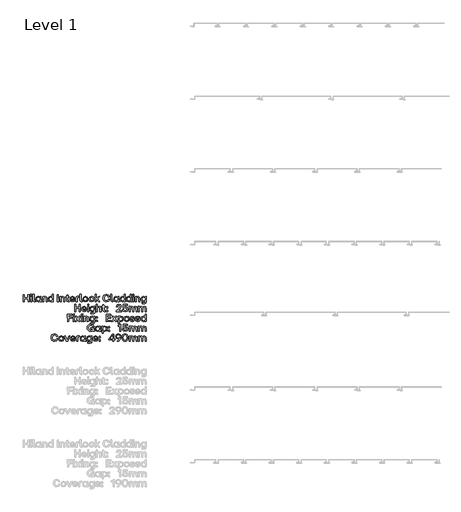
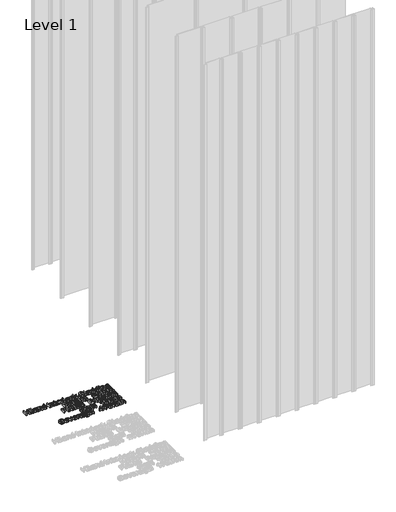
# One storey, part 51 of 64: 1 proxy.
"""IFC4 building model written with IfcOpenShell, lengths in millimetres."""

from ifc_helpers import new_model, si_unit, origin, origin_with_axes, place, context, project, spatial, polyline, outline, extrude, element, save

model = new_model("IFC4")

# Units and contexts
model_context = context("Model", 3, world=origin())
ifc_project = project(units=[si_unit("LENGTHUNIT", "METRE", prefix="MILLI")], contexts=[model_context])

# Site, building, storey
site = spatial("IfcSite", under=ifc_project)
building = spatial("IfcBuilding", under=site)
storey = spatial("IfcBuildingStorey", under=building, Name="Level 1", Elevation=0.0)

# Proxy
placement = place(None, origin())
element("IfcBuildingElementProxy", 1, Name="50mm", ObjectType="50mm", at=placement, inside=storey, context=model_context, shape_type="SweptSolid", body=[
    extrude(outline(polyline([(-1116.4360885, 1096.9748178), (-1117.1334203, 1118.9128767), (-1140.9821684, 1118.9128767), (-1140.9821684, 1097.6721497), (-1148.4854587, 1096.9748178), (-1149.2106838, 1146.2482839), (-1141.7213401, 1146.973509), (-1140.9821684, 1125.8861949), (-1117.1334203, 1125.8861949), (-1117.1334203, 1146.2482839), (-1109.6440766, 1146.973509), (-1108.9467448, 1097.6721497), (-1116.4360885, 1096.9748178)])), origin_with_axes(), (0.0, 0.0, 1.0), 20.0),
    extrude(outline(polyline([(-1098.8493802, 1096.9748178), (-1099.5746052, 1132.6782068), (-1092.3641943, 1133.3755386), (-1091.6668625, 1097.6721497), (-1098.8493802, 1096.9748178)])), origin_with_axes(), (0.0, 0.0, 1.0), 20.0),
    extrude(outline(polyline([(-1099.7838048, 1140.0420307), (-1100.1324707, 1148.0892399), (-1091.7365957, 1148.8284116), (-1090.9974239, 1140.3906966), (-1099.7838048, 1140.0420307)])), origin_with_axes(), (0.0, 0.0, 1.0), 20.0),
    extrude(outline(polyline([(-1072.2670914, 1096.9748178), (-1079.9656346, 1099.6246787), (-1082.6154955, 1107.3371686), (-1082.6154955, 1147.6708408), (-1075.4050846, 1148.4100125), (-1074.7077527, 1103.2508042), (-1068.0412606, 1103.2508042), (-1067.3439288, 1097.6721497), (-1072.2670914, 1096.9748178)])), origin_with_axes(), (0.0, 0.0, 1.0), 20.0),
    extrude(outline(polyline([(-1047.1770927, 1096.5564188), (-1058.9480537, 1101.5981278), (-1063.3272975, 1115.105445), (-1058.9480537, 1128.7452553), (-1047.1770927, 1133.8357776), (-1040.5594138, 1132.2319144), (-1035.5734913, 1127.838724), (-1035.2527187, 1132.6782068), (-1028.070201, 1133.3755386), (-1027.3449759, 1103.2508042), (-1023.3980778, 1103.2508042), (-1022.700746, 1097.6721497), (-1028.6977996, 1096.9748178), (-1033.3524895, 1098.282315), (-1034.9040528, 1102.2048065), (-1040.2595611, 1098.1602819), (-1047.1770927, 1096.5564188)]), holes=[polyline([(-1055.2661417, 1115.105445), (-1052.5116811, 1106.2144644), (-1044.9874708, 1102.9718715), (-1037.6236468, 1106.2005178), (-1034.9737859, 1115.105445), (-1037.6445668, 1124.1010254), (-1044.9874708, 1127.378485), (-1052.5116811, 1124.1010254), (-1055.2661417, 1115.105445)])]), origin_with_axes(), (0.0, 0.0, 1.0), 20.0),
    extrude(outline(polyline([(-1015.839001, 1096.9748178), (-1016.564226, 1132.6782068), (-1009.702481, 1133.3755386), (-1009.0051492, 1127.838724), (-1003.8414071, 1132.3365142), (-997.2202415, 1133.8357776), (-987.6598223, 1129.6517867), (-984.3474962, 1117.40664), (-984.3474962, 1097.6721497), (-991.5718538, 1096.9748178), (-992.2970789, 1117.40664), (-994.249608, 1124.7844106), (-1000.4209945, 1127.0995522), (-1006.6481676, 1124.749544), (-1008.6564833, 1117.40664), (-1008.6564833, 1097.6721497), (-1015.839001, 1096.9748178)])), origin_with_axes(), (0.0, 0.0, 1.0), 20.0),
    extrude(outline(polyline([(-961.4889593, 1096.5564188), (-973.2599204, 1101.5981278), (-977.6391641, 1115.105445), (-973.2599204, 1128.7452553), (-961.4889593, 1133.8357776), (-954.8712804, 1132.2319144), (-949.8853579, 1127.838724), (-949.5645853, 1147.6708408), (-942.3820676, 1148.4100125), (-941.6568425, 1097.6721497), (-948.5185876, 1096.9748178), (-949.2159194, 1102.4837392), (-954.5714277, 1098.1602819), (-961.4889593, 1096.5564188)]), holes=[polyline([(-969.5780084, 1115.105445), (-966.8235477, 1106.2144644), (-959.2993374, 1102.9718715), (-951.9355135, 1106.2005178), (-949.2856526, 1115.105445), (-951.9564334, 1124.1010254), (-959.2993374, 1127.378485), (-966.8235477, 1124.1010254), (-969.5780084, 1115.105445)])]), origin_with_axes(), (0.0, 0.0, 1.0), 20.0),
    extrude(outline(polyline([(-914.2795955, 1096.9748178), (-914.9769273, 1146.2482839), (-907.473637, 1146.973509), (-906.7763051, 1097.6721497), (-914.2795955, 1096.9748178)])), origin_with_axes(), (0.0, 0.0, 1.0), 20.0),
    extrude(outline(polyline([(-896.2326481, 1096.9748178), (-896.9578732, 1132.6782068), (-890.0961281, 1133.3755386), (-889.3987963, 1127.838724), (-884.2350542, 1132.3365142), (-877.6138887, 1133.8357776), (-868.0534695, 1129.6517867), (-864.7411434, 1117.40664), (-864.7411434, 1097.6721497), (-871.965501, 1096.9748178), (-872.6907261, 1117.40664), (-874.6432551, 1124.7844106), (-880.8146417, 1127.0995522), (-887.0418148, 1124.749544), (-889.0501304, 1117.40664), (-889.0501304, 1097.6721497), (-896.2326481, 1096.9748178)])), origin_with_axes(), (0.0, 0.0, 1.0), 20.0),
    extrude(outline(polyline([(-841.4642074, 1096.9748178), (-849.1766973, 1099.6246787), (-851.8265582, 1107.3371686), (-851.8265582, 1127.0995522), (-858.0328113, 1127.0995522), (-858.7580364, 1132.6782068), (-851.8265582, 1133.3755386), (-851.8265582, 1143.3892234), (-844.6022006, 1144.1144485), (-843.9048687, 1133.3755386), (-835.1184879, 1133.3755386), (-834.3932628, 1127.838724), (-843.9048687, 1127.0995522), (-843.9048687, 1103.2508042), (-835.1184879, 1103.2508042), (-834.3932628, 1097.6721497), (-841.4642074, 1096.9748178)])), origin_with_axes(), (0.0, 0.0, 1.0), 20.0),
    extrude(outline(polyline([(-811.0605403, 1096.5564188), (-824.4632578, 1101.5981278), (-829.4701002, 1115.105445), (-824.4841777, 1128.759202), (-811.0605403, 1133.8357776), (-798.780527, 1128.8289351), (-794.2827368, 1115.1751782), (-794.2827368, 1113.264489), (-821.3392112, 1112.5253173), (-818.2709512, 1105.482266), (-811.0605403, 1102.9718715), (-805.2726862, 1104.2479887), (-802.2741594, 1107.8253009), (-795.1892682, 1108.4110596), (-799.8474447, 1099.6455987), (-811.0605403, 1096.5564188)]), holes=[polyline([(-821.269478, 1118.3131714), (-802.0649599, 1118.3131714), (-804.7078474, 1124.9587436), (-811.0605403, 1127.378485), (-818.1524048, 1125.07729), (-821.269478, 1118.3131714)])]), origin_with_axes(), (0.0, 0.0, 1.0), 20.0),
    extrude(outline(polyline([(-786.8212864, 1096.9748178), (-787.5186182, 1123.0550277), (-784.8687573, 1130.7465976), (-777.1702141, 1133.3755386), (-767.0170629, 1133.3755386), (-766.3197311, 1127.378485), (-779.6108754, 1126.6811531), (-779.6108754, 1097.6721497), (-786.8212864, 1096.9748178)])), origin_with_axes(), (0.0, 0.0, 1.0), 20.0),
    extrude(outline(polyline([(-749.1514218, 1096.9748178), (-756.849965, 1099.6246787), (-759.4998259, 1107.3371686), (-759.4998259, 1147.6708408), (-752.2894149, 1148.4100125), (-751.5920831, 1103.2508042), (-744.925591, 1103.2508042), (-744.2282592, 1097.6721497), (-749.1514218, 1096.9748178)])), origin_with_axes(), (0.0, 0.0, 1.0), 20.0),
    extrude(outline(polyline([(-722.0112676, 1096.5564188), (-735.1699189, 1101.6818076), (-740.2116279, 1115.105445), (-735.1559723, 1128.6406555), (-722.0112676, 1133.8357776), (-708.7410431, 1128.6406555), (-703.6714408, 1115.105445), (-708.7410431, 1101.6818076), (-722.0112676, 1096.5564188)]), holes=[polyline([(-732.1504721, 1115.105445), (-729.451798, 1106.2005178), (-722.0112676, 1102.9718715), (-714.4731106, 1106.2144644), (-711.71865, 1115.105445), (-714.459164, 1124.1010254), (-722.0112676, 1127.378485), (-729.451798, 1124.1010254), (-732.1504721, 1115.105445)])]), origin_with_axes(), (0.0, 0.0, 1.0), 20.0),
    extrude(outline(polyline([(-679.9203192, 1096.5564188), (-693.2533035, 1101.5981278), (-698.2601459, 1115.105445), (-693.1835703, 1128.6406555), (-679.9203192, 1133.8357776), (-668.84669, 1130.3979317), (-663.630648, 1121.3116982), (-670.6458061, 1120.5446332), (-674.216145, 1125.844355), (-679.9203192, 1127.378485), (-687.4793961, 1124.1010254), (-690.1989902, 1115.105445), (-687.4654495, 1106.1795978), (-679.9203192, 1102.9718715), (-674.041812, 1104.4362683), (-671.0642052, 1109.1781246), (-663.9793139, 1109.8475631), (-668.6374905, 1099.9942646), (-679.9203192, 1096.5564188)])), origin_with_axes(), (0.0, 0.0, 1.0), 20.0),
    extrude(outline(polyline([(-655.234773, 1096.9748178), (-655.9599981, 1147.6708408), (-648.7495871, 1148.4100125), (-648.0522553, 1117.6158396), (-632.8085818, 1133.0268727), (-624.9008391, 1133.3755386), (-637.6201714, 1118.4526377), (-623.5340687, 1097.8534559), (-631.1768254, 1096.9748178), (-642.8919999, 1113.264489), (-648.0522553, 1108.2018601), (-648.0522553, 1097.6721497), (-655.234773, 1096.9748178)])), origin_with_axes(), (0.0, 0.0, 1.0), 20.0),
    extrude(outline(polyline([(-577.2451828, 1096.5564188), (-587.2518944, 1098.2701117), (-594.9574109, 1103.4111905), (-599.8736002, 1111.4810629), (-601.51233, 1121.9811367), (-599.8596536, 1132.3051342), (-594.9016244, 1140.4046433), (-587.1821612, 1145.6450918), (-577.2451828, 1147.391908), (-563.0684271, 1142.7755714), (-556.1160289, 1130.4885849), (-563.4380129, 1129.6796799), (-568.601755, 1137.8698421), (-577.2451828, 1140.3906966), (-588.9045708, 1135.4535874), (-593.1443482, 1121.9811367), (-588.9254907, 1108.397113), (-577.2451828, 1103.5297369), (-568.4309087, 1106.0157248), (-563.7448389, 1113.4736886), (-556.3252284, 1114.1291805), (-562.7894943, 1101.1588087), (-577.2451828, 1096.5564188)])), origin_with_axes(), (0.0, 0.0, 1.0), 20.0),
    extrude(outline(polyline([(-537.6088425, 1096.9748178), (-545.3073857, 1099.6246787), (-547.9572466, 1107.3371686), (-547.9572466, 1147.6708408), (-540.7468357, 1148.4100125), (-540.0495039, 1103.2508042), (-533.3830117, 1103.2508042), (-532.6856799, 1097.6721497), (-537.6088425, 1096.9748178)])), origin_with_axes(), (0.0, 0.0, 1.0), 20.0),
    extrude(outline(polyline([(-512.5188438, 1096.5564188), (-524.2898048, 1101.5981278), (-528.6690486, 1115.105445), (-524.2898048, 1128.7452553), (-512.5188438, 1133.8357776), (-505.9011649, 1132.2319144), (-500.9152424, 1127.838724), (-500.5944698, 1132.6782068), (-493.4119521, 1133.3755386), (-492.686727, 1103.2508042), (-488.7398289, 1103.2508042), (-488.0424971, 1097.6721497), (-494.0395507, 1096.9748178), (-498.6942406, 1098.282315), (-500.2458039, 1102.2048065), (-505.6013122, 1098.1602819), (-512.5188438, 1096.5564188)]), holes=[polyline([(-520.6078929, 1115.105445), (-517.8534322, 1106.2144644), (-510.3292219, 1102.9718715), (-502.965398, 1106.2005178), (-500.3155371, 1115.105445), (-502.9863179, 1124.1010254), (-510.3292219, 1127.378485), (-517.8534322, 1124.1010254), (-520.6078929, 1115.105445)])]), origin_with_axes(), (0.0, 0.0, 1.0), 20.0),
    extrude(outline(polyline([(-467.8896077, 1096.5564188), (-479.6605687, 1101.5981278), (-484.0398125, 1115.105445), (-479.6605687, 1128.7452553), (-467.8896077, 1133.8357776), (-461.2719288, 1132.2319144), (-456.2860063, 1127.838724), (-455.9652337, 1147.6708408), (-448.782716, 1148.4100125), (-448.0574909, 1097.6721497), (-454.9192359, 1096.9748178), (-455.6165677, 1102.4837392), (-460.9720761, 1098.1602819), (-467.8896077, 1096.5564188)]), holes=[polyline([(-475.9786567, 1115.105445), (-473.2241961, 1106.2144644), (-465.6999858, 1102.9718715), (-458.3361618, 1106.2005178), (-455.6863009, 1115.105445), (-458.3570818, 1124.1010254), (-465.6999858, 1127.378485), (-473.2241961, 1124.1010254), (-475.9786567, 1115.105445)])]), origin_with_axes(), (0.0, 0.0, 1.0), 20.0),
    extrude(outline(polyline([(-425.045541, 1096.5564188), (-436.816502, 1101.5981278), (-441.1957458, 1115.105445), (-436.816502, 1128.7452553), (-425.045541, 1133.8357776), (-418.4278621, 1132.2319144), (-413.4419396, 1127.838724), (-413.121167, 1147.6708408), (-405.9386493, 1148.4100125), (-405.2134242, 1097.6721497), (-412.0751692, 1096.9748178), (-412.7725011, 1102.4837392), (-418.1280094, 1098.1602819), (-425.045541, 1096.5564188)]), holes=[polyline([(-433.13459, 1115.105445), (-430.3801294, 1106.2144644), (-422.8559191, 1102.9718715), (-415.4920951, 1106.2005178), (-412.8422342, 1115.105445), (-415.5130151, 1124.1010254), (-422.8559191, 1127.378485), (-430.3801294, 1124.1010254), (-433.13459, 1115.105445)])]), origin_with_axes(), (0.0, 0.0, 1.0), 20.0),
    extrude(outline(polyline([(-395.4926187, 1096.9748178), (-396.2178438, 1132.6782068), (-389.0074328, 1133.3755386), (-388.310101, 1097.6721497), (-395.4926187, 1096.9748178)])), origin_with_axes(), (0.0, 0.0, 1.0), 20.0),
    extrude(outline(polyline([(-396.4270433, 1140.0420307), (-396.7757092, 1148.0892399), (-388.3798342, 1148.8284116), (-387.6406625, 1140.3906966), (-396.4270433, 1140.0420307)])), origin_with_axes(), (0.0, 0.0, 1.0), 20.0),
    extrude(outline(polyline([(-378.533509, 1096.9748178), (-379.258734, 1132.6782068), (-372.396989, 1133.3755386), (-371.6996572, 1127.838724), (-366.5359151, 1132.3365142), (-359.9147495, 1133.8357776), (-350.3543303, 1129.6517867), (-347.0420042, 1117.40664), (-347.0420042, 1097.6721497), (-354.2663618, 1096.9748178), (-354.9915869, 1117.40664), (-356.944116, 1124.7844106), (-363.1155025, 1127.0995522), (-369.3426756, 1124.749544), (-371.3509913, 1117.40664), (-371.3509913, 1097.6721497), (-378.533509, 1096.9748178)])), origin_with_axes(), (0.0, 0.0, 1.0), 20.0),
    extrude(outline(polyline([(-332.7606486, 1083.4186874), (-333.4998204, 1088.9973419), (-312.2590933, 1089.6946737), (-312.2590933, 1102.5534724), (-317.5657884, 1098.1602819), (-324.1834673, 1096.5564188), (-335.9544284, 1101.6329944), (-340.3336722, 1115.2449114), (-335.9544284, 1128.7801219), (-324.1834673, 1133.8357776), (-317.2659357, 1132.2319144), (-312.1893601, 1127.9084571), (-311.9104274, 1132.6782068), (-305.0765756, 1133.3755386), (-304.3513505, 1093.4184256), (-306.9314782, 1085.9778951), (-314.3510887, 1083.4186874), (-332.7606486, 1083.4186874)]), holes=[polyline([(-332.2725164, 1115.2449114), (-329.5180557, 1106.249331), (-321.9938454, 1102.9718715), (-314.6509414, 1106.249331), (-311.9801606, 1115.2449114), (-314.6300215, 1124.156812), (-321.9938454, 1127.378485), (-329.5180557, 1124.135892), (-332.2725164, 1115.2449114)])]), origin_with_axes(), (0.0, 0.0, 1.0), 20.0),
    extrude(outline(polyline([(-763.8651231, 1029.1231234), (-764.5624549, 1051.0611823), (-788.4112029, 1051.0611823), (-788.4112029, 1029.8204552), (-795.9144933, 1029.1231234), (-796.6397184, 1078.3965894), (-789.1503747, 1079.1218145), (-788.4112029, 1058.0345004), (-764.5624549, 1058.0345004), (-764.5624549, 1078.3965894), (-757.0731112, 1079.1218145), (-756.3757794, 1029.8204552), (-763.8651231, 1029.1231234)])), origin_with_axes(), (0.0, 0.0, 1.0), 20.0),
    extrude(outline(polyline([(-730.7279152, 1028.7047243), (-744.1306327, 1033.7464333), (-749.1374751, 1047.2537506), (-744.1515527, 1060.9075075), (-730.7279152, 1065.9840831), (-718.447902, 1060.9772407), (-713.9501118, 1047.3234838), (-713.9501118, 1045.4127946), (-741.0065862, 1044.6736229), (-737.9383262, 1037.6305715), (-730.7279152, 1035.120177), (-724.9400612, 1036.3962942), (-721.9415344, 1039.9736064), (-714.8566431, 1040.5593652), (-719.5148197, 1031.7939042), (-730.7279152, 1028.7047243)]), holes=[polyline([(-740.936853, 1050.4614769), (-721.7323348, 1050.4614769), (-724.3752224, 1057.1070491), (-730.7279152, 1059.5267905), (-737.8197798, 1057.2255955), (-740.936853, 1050.4614769)])]), origin_with_axes(), (0.0, 0.0, 1.0), 20.0),
    extrude(outline(polyline([(-706.1121022, 1029.1231234), (-706.8373273, 1064.8265123), (-699.6269163, 1065.5238441), (-698.9295845, 1029.8204552), (-706.1121022, 1029.1231234)])), origin_with_axes(), (0.0, 0.0, 1.0), 20.0),
    extrude(outline(polyline([(-707.0465268, 1072.1903363), (-707.3951927, 1080.2375454), (-698.9993177, 1080.9767171), (-698.2601459, 1072.5390022), (-707.0465268, 1072.1903363)])), origin_with_axes(), (0.0, 0.0, 1.0), 20.0),
    extrude(outline(polyline([(-684.4390294, 1015.5669929), (-685.1782011, 1021.1456474), (-663.937474, 1021.8429792), (-663.937474, 1034.7017779), (-669.2441691, 1030.3085875), (-675.8618481, 1028.7047243), (-687.6328091, 1033.7812999), (-692.0120529, 1047.3932169), (-687.6328091, 1060.9284275), (-675.8618481, 1065.9840831), (-668.9443165, 1064.3802199), (-663.8677409, 1060.0567627), (-663.5888081, 1064.8265123), (-656.7549563, 1065.5238441), (-656.0297313, 1025.5667311), (-658.609859, 1018.1262007), (-666.0294695, 1015.5669929), (-684.4390294, 1015.5669929)]), holes=[polyline([(-683.9508971, 1047.3932169), (-681.1964364, 1038.3976365), (-673.6722262, 1035.120177), (-666.3293222, 1038.3976365), (-663.6585413, 1047.3932169), (-666.3084022, 1056.3051175), (-673.6722262, 1059.5267905), (-681.1964364, 1056.2841976), (-683.9508971, 1047.3932169)])]), origin_with_axes(), (0.0, 0.0, 1.0), 20.0),
    extrude(outline(polyline([(-646.3089258, 1029.1231234), (-647.0341508, 1079.8191463), (-639.8237399, 1080.558318), (-639.1264081, 1060.2659622), (-634.0393725, 1064.5545529), (-627.6901663, 1065.9840831), (-618.1297471, 1061.8000922), (-614.817421, 1049.5549456), (-614.817421, 1029.8204552), (-622.0417786, 1029.1231234), (-622.7670037, 1049.5549456), (-624.7195328, 1056.9327162), (-630.8909193, 1059.2478578), (-637.1180924, 1056.8978496), (-639.1264081, 1049.5549456), (-639.1264081, 1029.8204552), (-646.3089258, 1029.1231234)])), origin_with_axes(), (0.0, 0.0, 1.0), 20.0),
    extrude(outline(polyline([(-591.540485, 1029.1231234), (-599.2529749, 1031.7729843), (-601.9028358, 1039.4854742), (-601.9028358, 1059.2478578), (-608.109089, 1059.2478578), (-608.834314, 1064.8265123), (-601.9028358, 1065.5238441), (-601.9028358, 1075.537529), (-594.6784782, 1076.2627541), (-593.9811464, 1065.5238441), (-585.1947655, 1065.5238441), (-584.4695404, 1059.9870295), (-593.9811464, 1059.2478578), (-593.9811464, 1035.3991097), (-585.1947655, 1035.3991097), (-584.4695404, 1029.8204552), (-591.540485, 1029.1231234)])), origin_with_axes(), (0.0, 0.0, 1.0), 20.0),
    extrude(outline(polyline([(-577.0638766, 1052.7626719), (-577.7612084, 1062.3858509), (-568.2774957, 1063.1250227), (-567.5522706, 1053.4600037), (-577.0638766, 1052.7626719)])), origin_with_axes(), (0.0, 0.0, 1.0), 20.0),
    extrude(outline(polyline([(-577.4125425, 1029.4717893), (-577.7612084, 1038.7463024), (-568.2774957, 1039.4854742), (-567.5522706, 1029.8204552), (-577.4125425, 1029.4717893)])), origin_with_axes(), (0.0, 0.0, 1.0), 20.0),
    extrude(outline(polyline([(-509.5761036, 1029.1231234), (-510.3013286, 1033.9068196), (-492.9377665, 1049.9036115), (-485.7901154, 1057.8183276), (-483.8027197, 1065.105445), (-485.783142, 1070.7852127), (-491.7244091, 1072.6784685), (-498.5931275, 1070.6004197), (-501.4452146, 1064.031554), (-508.8787717, 1063.3342222), (-504.2903284, 1075.5305557), (-491.7244091, 1079.5402136), (-479.8976615, 1075.670022), (-475.5742043, 1065.105445), (-478.2589318, 1055.328853), (-487.4288451, 1044.9246623), (-496.8846645, 1036.4172142), (-474.1516474, 1036.1382814), (-473.4543156, 1029.8204552), (-509.5761036, 1029.1231234)])), origin_with_axes(), (0.0, 0.0, 1.0), 20.0),
    extrude(outline(polyline([(-448.1969572, 1028.7047243), (-461.3974485, 1032.4005829), (-467.2062225, 1043.1115996), (-459.8423985, 1043.9065579), (-455.634001, 1037.4736719), (-448.1969572, 1035.5385761), (-440.7912934, 1038.2233036), (-438.197219, 1045.8311937), (-440.7773467, 1053.1322578), (-448.3364236, 1055.6217323), (-458.6987744, 1051.6887809), (-463.5382572, 1051.9677136), (-462.4922594, 1078.3965894), (-432.8556573, 1079.1218145), (-432.1304322, 1072.8179349), (-455.8397139, 1072.1206031), (-456.6346722, 1059.4570573), (-451.4604701, 1061.6536525), (-445.7562959, 1062.4555841), (-434.2015077, 1058.0275271), (-429.9965969, 1045.8311937), (-434.8081864, 1033.2234345), (-448.1969572, 1028.7047243)])), origin_with_axes(), (0.0, 0.0, 1.0), 20.0),
    extrude(outline(polyline([(-421.3775756, 1029.1231234), (-422.1028007, 1064.8265123), (-415.2410557, 1065.5238441), (-414.5437239, 1059.9870295), (-409.5578014, 1064.4848197), (-403.1074821, 1065.9840831), (-396.8210358, 1064.4848197), (-392.605665, 1059.9870295), (-386.7829443, 1064.4290332), (-379.5376668, 1065.9840831), (-370.2631536, 1061.8140389), (-367.0554273, 1049.5549456), (-367.0554273, 1029.8204552), (-374.2658383, 1029.1231234), (-374.9631701, 1049.5549456), (-376.845966, 1056.9327162), (-382.8151263, 1059.2478578), (-388.7215268, 1056.8978496), (-390.6252426, 1049.5549456), (-390.6252426, 1029.8204552), (-397.8356536, 1029.1231234), (-398.5329854, 1049.5549456), (-400.4018347, 1056.9327162), (-406.3152085, 1059.2478578), (-412.2913421, 1056.8978496), (-414.195058, 1049.5549456), (-414.195058, 1029.8204552), (-421.3775756, 1029.1231234)])), origin_with_axes(), (0.0, 0.0, 1.0), 20.0),
    extrude(outline(polyline([(-358.0040603, 1029.1231234), (-358.7292854, 1064.8265123), (-351.8675404, 1065.5238441), (-351.1702086, 1059.9870295), (-346.1842861, 1064.4848197), (-339.7339668, 1065.9840831), (-333.4475205, 1064.4848197), (-329.2321497, 1059.9870295), (-323.409429, 1064.4290332), (-316.1641515, 1065.9840831), (-306.8896383, 1061.8140389), (-303.681912, 1049.5549456), (-303.681912, 1029.8204552), (-310.8923229, 1029.1231234), (-311.5896548, 1049.5549456), (-313.4724507, 1056.9327162), (-319.441611, 1059.2478578), (-325.3480115, 1056.8978496), (-327.2517273, 1049.5549456), (-327.2517273, 1029.8204552), (-334.4621383, 1029.1231234), (-335.1594701, 1049.5549456), (-337.0283194, 1056.9327162), (-342.9416931, 1059.2478578), (-348.9178268, 1056.8978496), (-350.8215426, 1049.5549456), (-350.8215426, 1029.8204552), (-358.0040603, 1029.1231234)])), origin_with_axes(), (0.0, 0.0, 1.0), 20.0),
    extrude(outline(polyline([(-845.006653, 961.2714289), (-845.7318781, 1010.544895), (-814.1427469, 1011.27012), (-813.4454151, 1004.9662404), (-837.5033627, 1004.2689086), (-837.5033627, 989.2065414), (-815.5792504, 989.2065414), (-814.8819186, 982.9305551), (-837.5033627, 982.1913834), (-837.5033627, 961.9687608), (-845.006653, 961.2714289)])), origin_with_axes(), (0.0, 0.0, 1.0), 20.0),
    extrude(outline(polyline([(-805.1890064, 961.2714289), (-805.9142315, 996.9748178), (-798.7038205, 997.6721497), (-798.0064887, 961.9687608), (-805.1890064, 961.2714289)])), origin_with_axes(), (0.0, 0.0, 1.0), 20.0),
    extrude(outline(polyline([(-806.123431, 1004.3386418), (-806.4720969, 1012.3858509), (-798.0762219, 1013.1250227), (-797.3370502, 1004.6873077), (-806.123431, 1004.3386418)])), origin_with_axes(), (0.0, 0.0, 1.0), 20.0),
    extrude(outline(polyline([(-791.0889571, 961.2714289), (-778.3277849, 979.750722), (-790.5310917, 996.8353515), (-782.5396691, 997.6721497), (-773.7532882, 985.6780424), (-765.5247728, 997.2537506), (-757.4078305, 997.6721497), (-769.0114319, 980.5596269), (-755.9713269, 962.150067), (-763.9627495, 961.2714289), (-773.683555, 974.7020397), (-782.9580681, 961.689828), (-791.0889571, 961.2714289)])), origin_with_axes(), (0.0, 0.0, 1.0), 20.0),
    extrude(outline(polyline([(-748.9561689, 961.2714289), (-749.681394, 996.9748178), (-742.470983, 997.6721497), (-741.7736512, 961.9687608), (-748.9561689, 961.2714289)])), origin_with_axes(), (0.0, 0.0, 1.0), 20.0),
    extrude(outline(polyline([(-749.8905935, 1004.3386418), (-750.2392594, 1012.3858509), (-741.8433844, 1013.1250227), (-741.1042126, 1004.6873077), (-749.8905935, 1004.3386418)])), origin_with_axes(), (0.0, 0.0, 1.0), 20.0),
    extrude(outline(polyline([(-731.9970591, 961.2714289), (-732.7222842, 996.9748178), (-725.8605392, 997.6721497), (-725.1632074, 992.1353351), (-719.9994653, 996.6331253), (-713.3782997, 998.1323887), (-703.8178805, 993.9483978), (-700.5055544, 981.7032511), (-700.5055544, 961.9687608), (-707.729912, 961.2714289), (-708.4551371, 981.7032511), (-710.4076662, 989.0810217), (-716.5790527, 991.3961633), (-722.8062258, 989.0461551), (-724.8145414, 981.7032511), (-724.8145414, 961.9687608), (-731.9970591, 961.2714289)])), origin_with_axes(), (0.0, 0.0, 1.0), 20.0),
    extrude(outline(polyline([(-686.2241988, 947.7152985), (-686.9633706, 953.293953), (-665.7226435, 953.9912848), (-665.7226435, 966.8500835), (-671.0293386, 962.456893), (-677.6470175, 960.8530298), (-689.4179785, 965.9296055), (-693.7972223, 979.5415225), (-689.4179785, 993.076733), (-677.6470175, 998.1323887), (-670.7294859, 996.5285255), (-665.6529103, 992.2050682), (-665.3739776, 996.9748178), (-658.5401258, 997.6721497), (-657.8149007, 957.7150367), (-660.3950284, 950.2745062), (-667.8146389, 947.7152985), (-686.2241988, 947.7152985)]), holes=[polyline([(-685.7360666, 979.5415225), (-682.9816059, 970.5459421), (-675.4573956, 967.2684825), (-668.1144916, 970.5459421), (-665.4437108, 979.5415225), (-668.0935716, 988.4534231), (-675.4573956, 991.6750961), (-682.9816059, 988.4325031), (-685.7360666, 979.5415225)])]), origin_with_axes(), (0.0, 0.0, 1.0), 20.0),
    extrude(outline(polyline([(-648.4706544, 984.9109775), (-649.1679862, 994.5341565), (-639.6842735, 995.2733282), (-638.9590484, 985.6083093), (-648.4706544, 984.9109775)])), origin_with_axes(), (0.0, 0.0, 1.0), 20.0),
    extrude(outline(polyline([(-648.8193203, 961.6200948), (-649.1679862, 970.894608), (-639.6842735, 971.6337797), (-638.9590484, 961.9687608), (-648.8193203, 961.6200948)])), origin_with_axes(), (0.0, 0.0, 1.0), 20.0),
    extrude(outline(polyline([(-578.1238209, 961.2714289), (-578.849046, 1010.544895), (-546.562583, 1011.27012), (-545.8373579, 1004.9662404), (-570.6205306, 1004.2689086), (-570.6205306, 989.9038732), (-547.9990865, 989.9038732), (-547.2599148, 983.6278869), (-570.6205306, 982.9305551), (-570.6205306, 968.286587), (-545.8373579, 968.286587), (-545.1400261, 961.9687608), (-578.1238209, 961.2714289)])), origin_with_axes(), (0.0, 0.0, 1.0), 20.0),
    extrude(outline(polyline([(-539.3800653, 961.2714289), (-526.6188931, 979.750722), (-538.8221999, 996.8353515), (-530.8307773, 997.6721497), (-522.0443964, 985.6780424), (-513.815881, 997.2537506), (-505.6989387, 997.6721497), (-517.3025401, 980.5596269), (-504.2624351, 962.150067), (-512.2538577, 961.2714289), (-521.9746632, 974.7020397), (-531.2491764, 961.689828), (-539.3800653, 961.2714289)])), origin_with_axes(), (0.0, 0.0, 1.0), 20.0),
    extrude(outline(polyline([(-497.2472771, 947.7152985), (-497.9725022, 996.9748178), (-491.1107571, 997.6721497), (-490.4134253, 992.2050682), (-485.057917, 996.5285255), (-478.1403854, 998.1323887), (-466.3694243, 993.076733), (-461.9901805, 979.5415225), (-466.3694243, 965.9296055), (-478.1403854, 960.8530298), (-484.7580643, 962.456893), (-489.7439868, 966.8500835), (-490.0647594, 948.4126303), (-497.2472771, 947.7152985)]), holes=[polyline([(-490.3436921, 979.5415225), (-487.6729113, 970.5459421), (-480.3300073, 967.2684825), (-472.805797, 970.5459421), (-470.0513363, 979.5415225), (-472.805797, 988.4325031), (-480.3300073, 991.6750961), (-487.6938312, 988.4534231), (-490.3436921, 979.5415225)])]), origin_with_axes(), (0.0, 0.0, 1.0), 20.0),
    extrude(outline(polyline([(-439.0619105, 960.8530298), (-452.2205618, 965.9784187), (-457.2622708, 979.4020561), (-452.2066152, 992.9372666), (-439.0619105, 998.1323887), (-425.791686, 992.9372666), (-420.7220837, 979.4020561), (-425.791686, 965.9784187), (-439.0619105, 960.8530298)]), holes=[polyline([(-449.201115, 979.4020561), (-446.5024409, 970.4971288), (-439.0619105, 967.2684825), (-431.5237535, 970.5110755), (-428.7692929, 979.4020561), (-431.5098069, 988.3976365), (-439.0619105, 991.6750961), (-446.5024409, 988.3976365), (-449.201115, 979.4020561)])]), origin_with_axes(), (0.0, 0.0, 1.0), 20.0),
    extrude(outline(polyline([(-399.6905562, 960.8530298), (-410.4224928, 963.8027434), (-414.8923898, 972.2613783), (-407.9469649, 973.0563366), (-404.8647583, 968.2447471), (-399.6905562, 966.9895498), (-395.2276326, 968.1750139), (-393.5540362, 971.354847), (-394.753447, 974.2139074), (-398.8119181, 975.7061975), (-403.9024404, 976.6127289), (-411.6288769, 980.1551745), (-414.1253248, 987.2540123), (-410.4643327, 995.1687284), (-400.5970876, 998.1323887), (-390.9041754, 995.377928), (-386.6783446, 987.5608383), (-393.6237694, 986.7658801), (-396.3712568, 990.928951), (-400.5970876, 991.9958687), (-404.8508116, 990.8940844), (-406.3152085, 987.7003047), (-405.2692107, 984.9318974), (-401.461779, 983.4186874), (-396.0225909, 982.4005829), (-388.0102483, 978.9139238), (-385.7439199, 971.7732461), (-389.3700454, 963.6772237), (-399.6905562, 960.8530298)])), origin_with_axes(), (0.0, 0.0, 1.0), 20.0),
    extrude(outline(polyline([(-362.0904248, 960.8530298), (-375.4931422, 965.8947389), (-380.4999847, 979.4020561), (-375.5140622, 993.055813), (-362.0904248, 998.1323887), (-349.8104115, 993.1255462), (-345.3126213, 979.4717893), (-345.3126213, 977.5611001), (-372.3690957, 976.8219284), (-369.3008357, 969.7788771), (-362.0904248, 967.2684825), (-356.3025707, 968.5445998), (-353.3040439, 972.121912), (-346.2191527, 972.7076707), (-350.8773292, 963.9422098), (-362.0904248, 960.8530298)]), holes=[polyline([(-372.2993625, 982.6097825), (-353.0948444, 982.6097825), (-355.7377319, 989.2553547), (-362.0904248, 991.6750961), (-369.1822893, 989.3739011), (-372.2993625, 982.6097825)])]), origin_with_axes(), (0.0, 0.0, 1.0), 20.0),
    extrude(outline(polyline([(-324.1834673, 960.8530298), (-335.9544284, 965.8947389), (-340.3336722, 979.4020561), (-335.9544284, 993.0418664), (-324.1834673, 998.1323887), (-317.5657884, 996.5285255), (-312.5798659, 992.1353351), (-312.2590933, 1011.9674519), (-305.0765756, 1012.7066236), (-304.3513505, 961.9687608), (-311.2130956, 961.2714289), (-311.9104274, 966.7803503), (-317.2659357, 962.456893), (-324.1834673, 960.8530298)]), holes=[polyline([(-332.2725164, 979.4020561), (-329.5180557, 970.5110755), (-321.9938454, 967.2684825), (-314.6300215, 970.4971288), (-311.9801606, 979.4020561), (-314.6509414, 988.3976365), (-321.9938454, 991.6750961), (-329.5180557, 988.3976365), (-332.2725164, 979.4020561)])]), origin_with_axes(), (0.0, 0.0, 1.0), 20.0),
    extrude(outline(polyline([(-686.0847325, 893.0013354), (-695.768928, 894.7097983), (-703.2042285, 899.8351872), (-707.9373682, 907.8998296), (-709.5150814, 918.4260534), (-707.8013885, 928.7936341), (-702.6603097, 936.8844265), (-694.695037, 942.0987251), (-684.5087626, 943.8368247), (-669.9066344, 939.2204881), (-662.75201, 926.9335015), (-670.1158339, 926.1245966), (-675.4504223, 934.2903521), (-684.5087626, 936.8356133), (-696.684176, 931.919424), (-701.1470997, 918.4260534), (-696.9421888, 904.8559762), (-685.2479343, 899.9746535), (-675.115703, 903.4613126), (-670.3947666, 912.9868652), (-685.8755329, 912.9868652), (-686.600758, 919.2628515), (-663.3796086, 919.9880766), (-662.6822768, 894.1170663), (-669.0279963, 893.4197345), (-669.7253281, 900.7138253), (-676.3220871, 895.1142508), (-686.0847325, 893.0013354)])), origin_with_axes(), (0.0, 0.0, 1.0), 20.0),
    extrude(outline(polyline([(-639.2658744, 893.0013354), (-651.0368355, 898.0430444), (-655.4160793, 911.5503617), (-651.0368355, 925.190172), (-639.2658744, 930.2806942), (-632.6481955, 928.676831), (-627.662273, 924.2836406), (-627.3415004, 929.1231234), (-620.1589827, 929.8204552), (-619.4337576, 899.6957208), (-615.4868596, 899.6957208), (-614.7895277, 894.1170663), (-620.7865813, 893.4197345), (-625.4412712, 894.7272316), (-626.9928345, 898.6497231), (-632.3483428, 894.6051986), (-639.2658744, 893.0013354)]), holes=[polyline([(-647.3549235, 911.5503617), (-644.6004628, 902.659381), (-637.0762525, 899.4167881), (-629.7124286, 902.6454344), (-627.0625677, 911.5503617), (-629.7333485, 920.5459421), (-637.0762525, 923.8234016), (-644.6004628, 920.5459421), (-647.3549235, 911.5503617)])]), origin_with_axes(), (0.0, 0.0, 1.0), 20.0),
    extrude(outline(polyline([(-607.9277827, 879.863604), (-608.6530078, 929.1231234), (-601.7912627, 929.8204552), (-601.0939309, 924.3533738), (-595.7384226, 928.676831), (-588.820891, 930.2806942), (-577.0499299, 925.2250385), (-572.6706861, 911.689828), (-577.0499299, 898.077911), (-588.820891, 893.0013354), (-595.4385699, 894.6051986), (-600.4244924, 898.998389), (-600.745265, 880.5609358), (-607.9277827, 879.863604)]), holes=[polyline([(-601.0241977, 911.689828), (-598.3534169, 902.6942476), (-591.0105129, 899.4167881), (-583.4863026, 902.6942476), (-580.7318419, 911.689828), (-583.4863026, 920.5808087), (-591.0105129, 923.8234016), (-598.3743368, 920.6017286), (-601.0241977, 911.689828)])]), origin_with_axes(), (0.0, 0.0, 1.0), 20.0),
    extrude(outline(polyline([(-565.4602752, 917.059283), (-566.157607, 926.682462), (-556.6738943, 927.4216338), (-555.9486692, 917.7566148), (-565.4602752, 917.059283)])), origin_with_axes(), (0.0, 0.0, 1.0), 20.0),
    extrude(outline(polyline([(-565.8089411, 893.7684004), (-566.157607, 903.0429135), (-556.6738943, 903.7820852), (-555.9486692, 894.1170663), (-565.8089411, 893.7684004)])), origin_with_axes(), (0.0, 0.0, 1.0), 20.0),
    extrude(outline(polyline([(-485.0997569, 893.4197345), (-485.8389286, 928.4257916), (-496.8846645, 928.4257916), (-497.6238363, 934.7017779), (-485.4902627, 935.3991097), (-485.4902627, 942.6932005), (-478.1961719, 943.4184256), (-477.4709468, 894.1170663), (-485.0997569, 893.4197345)])), origin_with_axes(), (0.0, 0.0, 1.0), 20.0),
    extrude(outline(polyline([(-448.1969572, 893.0013354), (-461.3974485, 896.697194), (-467.2062225, 907.4082107), (-459.8423985, 908.203169), (-455.634001, 901.770283), (-448.1969572, 899.8351872), (-440.7912934, 902.5199147), (-438.197219, 910.1278048), (-440.7773467, 917.4288689), (-448.3364236, 919.9183434), (-458.6987744, 915.985392), (-463.5382572, 916.2643247), (-462.4922594, 942.6932005), (-432.8556573, 943.4184256), (-432.1304322, 937.114546), (-455.8397139, 936.4172142), (-456.6346722, 923.7536684), (-451.4604701, 925.9502636), (-445.7562959, 926.7521952), (-434.2015077, 922.3241382), (-429.9965969, 910.1278048), (-434.8081864, 897.5200456), (-448.1969572, 893.0013354)])), origin_with_axes(), (0.0, 0.0, 1.0), 20.0),
    extrude(outline(polyline([(-421.3775756, 893.4197345), (-422.1028007, 929.1231234), (-415.2410557, 929.8204552), (-414.5437239, 924.2836406), (-409.5578014, 928.7814308), (-403.1074821, 930.2806942), (-396.8210358, 928.7814308), (-392.605665, 924.2836406), (-386.7829443, 928.7256443), (-379.5376668, 930.2806942), (-370.2631536, 926.11065), (-367.0554273, 913.8515567), (-367.0554273, 894.1170663), (-374.2658383, 893.4197345), (-374.9631701, 913.8515567), (-376.845966, 921.2293273), (-382.8151263, 923.5444689), (-388.7215268, 921.1944607), (-390.6252426, 913.8515567), (-390.6252426, 894.1170663), (-397.8356536, 893.4197345), (-398.5329854, 913.8515567), (-400.4018347, 921.2293273), (-406.3152085, 923.5444689), (-412.2913421, 921.1944607), (-414.195058, 913.8515567), (-414.195058, 894.1170663), (-421.3775756, 893.4197345)])), origin_with_axes(), (0.0, 0.0, 1.0), 20.0),
    extrude(outline(polyline([(-358.0040603, 893.4197345), (-358.7292854, 929.1231234), (-351.8675404, 929.8204552), (-351.1702086, 924.2836406), (-346.1842861, 928.7814308), (-339.7339668, 930.2806942), (-333.4475205, 928.7814308), (-329.2321497, 924.2836406), (-323.409429, 928.7256443), (-316.1641515, 930.2806942), (-306.8896383, 926.11065), (-303.681912, 913.8515567), (-303.681912, 894.1170663), (-310.8923229, 893.4197345), (-311.5896548, 913.8515567), (-313.4724507, 921.2293273), (-319.441611, 923.5444689), (-325.3480115, 921.1944607), (-327.2517273, 913.8515567), (-327.2517273, 894.1170663), (-334.4621383, 893.4197345), (-335.1594701, 913.8515567), (-337.0283194, 921.2293273), (-342.9416931, 923.5444689), (-348.9178268, 921.1944607), (-350.8215426, 913.8515567), (-350.8215426, 894.1170663), (-358.0040603, 893.4197345)])), origin_with_axes(), (0.0, 0.0, 1.0), 20.0),
    extrude(outline(polyline([(-934.2790719, 825.1496409), (-944.2857835, 826.8633339), (-951.9913, 832.0044127), (-956.9074893, 840.0742851), (-958.5462191, 850.5743589), (-956.8935427, 860.8983564), (-951.9355135, 868.9978654), (-944.2160503, 874.238314), (-934.2790719, 875.9851302), (-920.1023161, 871.3687936), (-913.1499179, 859.081807), (-920.471902, 858.2729021), (-925.6356441, 866.4630643), (-934.2790719, 868.9839188), (-945.9384599, 864.0468096), (-950.1782373, 850.5743589), (-945.9593798, 836.9903352), (-934.2790719, 832.1229591), (-925.4647978, 834.608947), (-920.778728, 842.0669108), (-913.3591175, 842.7224027), (-919.8233834, 829.7520309), (-934.2790719, 825.1496409)])), origin_with_axes(), (0.0, 0.0, 1.0), 20.0),
    extrude(outline(polyline([(-888.9246107, 825.1496409), (-902.083262, 830.2750298), (-907.1249711, 843.6986672), (-902.0693154, 857.2338777), (-888.9246107, 862.4289998), (-875.6543863, 857.2338777), (-870.584784, 843.6986672), (-875.6543863, 830.2750298), (-888.9246107, 825.1496409)]), holes=[polyline([(-899.0638153, 843.6986672), (-896.3651412, 834.7937399), (-888.9246107, 831.5650936), (-881.3864538, 834.8076866), (-878.6319931, 843.6986672), (-881.3725071, 852.6942476), (-888.9246107, 855.9717071), (-896.3651412, 852.6942476), (-899.0638153, 843.6986672)])]), origin_with_axes(), (0.0, 0.0, 1.0), 20.0),
    extrude(outline(polyline([(-852.4820501, 825.56804), (-866.8749787, 861.1319626), (-859.6227278, 861.9687608), (-848.1864861, 832.0532259), (-837.3499497, 861.4108953), (-829.9861257, 861.9687608), (-843.0959638, 826.1259055), (-852.4820501, 825.56804)])), origin_with_axes(), (0.0, 0.0, 1.0), 20.0),
    extrude(outline(polyline([(-807.4902014, 825.1496409), (-820.8929189, 830.19135), (-825.8997613, 843.6986672), (-820.9138388, 857.3524241), (-807.4902014, 862.4289998), (-795.2101881, 857.4221573), (-790.7123979, 843.7684004), (-790.7123979, 841.8577112), (-817.7688723, 841.1185395), (-814.7006123, 834.0754882), (-807.4902014, 831.5650936), (-801.7023473, 832.8412109), (-798.7038205, 836.4185231), (-791.6189293, 837.0042818), (-796.2771058, 828.2388209), (-807.4902014, 825.1496409)]), holes=[polyline([(-817.6991392, 846.9063936), (-798.494621, 846.9063936), (-801.1375086, 853.5519658), (-807.4902014, 855.9717071), (-814.5820659, 853.6705122), (-817.6991392, 846.9063936)])]), origin_with_axes(), (0.0, 0.0, 1.0), 20.0),
    extrude(outline(polyline([(-783.2509475, 825.56804), (-783.9482793, 851.6482499), (-781.2984184, 859.3398198), (-773.5998752, 861.9687608), (-763.446724, 861.9687608), (-762.7493922, 855.9717071), (-776.0405365, 855.2743753), (-776.0405365, 826.2653718), (-783.2509475, 825.56804)])), origin_with_axes(), (0.0, 0.0, 1.0), 20.0),
    extrude(outline(polyline([(-741.9131175, 825.1496409), (-753.6840786, 830.19135), (-758.0633224, 843.6986672), (-753.6840786, 857.3384775), (-741.9131175, 862.4289998), (-735.2954386, 860.8251366), (-730.3095161, 856.4319461), (-729.9887435, 861.2714289), (-722.8062258, 861.9687608), (-722.0810007, 831.8440264), (-718.1341027, 831.8440264), (-717.4367709, 826.2653718), (-723.4338245, 825.56804), (-728.0885143, 826.8755372), (-729.6400776, 830.7980286), (-734.9955859, 826.7535041), (-741.9131175, 825.1496409)]), holes=[polyline([(-750.0021666, 843.6986672), (-747.2477059, 834.8076866), (-739.7234956, 831.5650936), (-732.3596717, 834.7937399), (-729.7098108, 843.6986672), (-732.3805916, 852.6942476), (-739.7234956, 855.9717071), (-747.2477059, 852.6942476), (-750.0021666, 843.6986672)])]), origin_with_axes(), (0.0, 0.0, 1.0), 20.0),
    extrude(outline(polyline([(-705.8610627, 812.0119096), (-706.6002345, 817.5905641), (-685.3595074, 818.2878959), (-685.3595074, 831.1466945), (-690.6662025, 826.7535041), (-697.2838814, 825.1496409), (-709.0548424, 830.2262166), (-713.4340862, 843.8381336), (-709.0548424, 857.3733441), (-697.2838814, 862.4289998), (-690.3663498, 860.8251366), (-685.2897742, 856.5016793), (-685.0108415, 861.2714289), (-678.1769897, 861.9687608), (-677.4517646, 822.0116478), (-680.0318923, 814.5711173), (-687.4515028, 812.0119096), (-705.8610627, 812.0119096)]), holes=[polyline([(-705.3729305, 843.8381336), (-702.6184698, 834.8425532), (-695.0942595, 831.5650936), (-687.7513555, 834.8425532), (-685.0805747, 843.8381336), (-687.7304355, 852.7500342), (-695.0942595, 855.9717071), (-702.6184698, 852.7291142), (-705.3729305, 843.8381336)])]), origin_with_axes(), (0.0, 0.0, 1.0), 20.0),
    extrude(outline(polyline([(-652.1804596, 825.1496409), (-665.5831771, 830.19135), (-670.5900195, 843.6986672), (-665.6040971, 857.3524241), (-652.1804596, 862.4289998), (-639.9004464, 857.4221573), (-635.4026562, 843.7684004), (-635.4026562, 841.8577112), (-662.4591306, 841.1185395), (-659.3908706, 834.0754882), (-652.1804596, 831.5650936), (-646.3926056, 832.8412109), (-643.3940788, 836.4185231), (-636.3091875, 837.0042818), (-640.9673641, 828.2388209), (-652.1804596, 825.1496409)]), holes=[polyline([(-662.3893974, 846.9063936), (-643.1848792, 846.9063936), (-645.8277668, 853.5519658), (-652.1804596, 855.9717071), (-659.2723242, 853.6705122), (-662.3893974, 846.9063936)])]), origin_with_axes(), (0.0, 0.0, 1.0), 20.0),
    extrude(outline(polyline([(-627.9412058, 849.2075885), (-628.6385376, 858.8307676), (-619.1548249, 859.5699393), (-618.4295998, 849.9049204), (-627.9412058, 849.2075885)])), origin_with_axes(), (0.0, 0.0, 1.0), 20.0),
    extrude(outline(polyline([(-628.2898717, 825.9167059), (-628.6385376, 835.1912191), (-619.1548249, 835.9303908), (-618.4295998, 826.2653718), (-628.2898717, 825.9167059)])), origin_with_axes(), (0.0, 0.0, 1.0), 20.0),
    extrude(outline(polyline([(-534.0942902, 825.56804), (-534.8195152, 836.000124), (-560.4534327, 836.000124), (-561.1786578, 840.0725418), (-537.399643, 875.1204388), (-527.3301716, 875.5667311), (-526.5909998, 843.0013354), (-519.3805889, 843.0013354), (-518.6832571, 836.6974558), (-526.5909998, 836.000124), (-526.5909998, 826.2653718), (-534.0942902, 825.56804)]), holes=[polyline([(-550.7605205, 843.1408018), (-534.5405825, 843.0013354), (-534.5405825, 867.4079489), (-550.7605205, 843.1408018)])]), origin_with_axes(), (0.0, 0.0, 1.0), 20.0),
    extrude(outline(polyline([(-509.0321847, 871.4524734), (-495.0994951, 875.9851302), (-481.1877254, 871.4524734), (-476.2018029, 858.8307676), (-477.9451324, 850.1350399), (-483.4958937, 840.2817413), (-493.5374718, 825.9864391), (-501.8357204, 825.56804), (-490.4692118, 843.2802681), (-497.5401564, 841.8577112), (-509.520317, 846.4949678), (-514.0390272, 858.8307676), (-509.0321847, 871.4524734)]), holes=[polyline([(-503.0490778, 866.4316844), (-505.838405, 858.8377409), (-503.0490778, 851.2368241), (-495.0994951, 848.5520966), (-487.2754321, 851.2507708), (-484.4024251, 858.8307676), (-487.1708324, 866.4386577), (-495.0994951, 869.1233852), (-503.0490778, 866.4316844)])]), origin_with_axes(), (0.0, 0.0, 1.0), 20.0),
    extrude(outline(polyline([(-449.8705536, 825.1496409), (-458.7876842, 826.7500175), (-465.1769869, 831.551147), (-469.0210286, 839.507703), (-470.3023758, 850.5743589), (-469.0210286, 861.6392715), (-465.1769869, 869.5905975), (-458.7876842, 874.386497), (-449.8705536, 875.9851302), (-441.0092096, 874.386497), (-434.6478001, 869.5905975), (-430.8142184, 861.6392715), (-429.5363579, 850.5743589), (-430.8142184, 839.507703), (-434.6478001, 831.551147), (-441.0092096, 826.7500175), (-449.8705536, 825.1496409)]), holes=[polyline([(-459.0892802, 864.6604616), (-461.934394, 850.5743589), (-459.0892802, 836.4673363), (-449.8705536, 832.1229591), (-440.7355068, 836.5161495), (-437.8764464, 850.5673856), (-440.7355068, 864.604675), (-449.8705536, 868.9839188), (-459.0892802, 864.6604616)])]), origin_with_axes(), (0.0, 0.0, 1.0), 20.0),
    extrude(outline(polyline([(-421.3775756, 825.56804), (-422.1028007, 861.2714289), (-415.2410557, 861.9687608), (-414.5437239, 856.4319461), (-409.5578014, 860.9297363), (-403.1074821, 862.4289998), (-396.8210358, 860.9297363), (-392.605665, 856.4319461), (-386.7829443, 860.8739498), (-379.5376668, 862.4289998), (-370.2631536, 858.2589555), (-367.0554273, 845.9998622), (-367.0554273, 826.2653718), (-374.2658383, 825.56804), (-374.9631701, 845.9998622), (-376.845966, 853.3776328), (-382.8151263, 855.6927744), (-388.7215268, 853.3427662), (-390.6252426, 845.9998622), (-390.6252426, 826.2653718), (-397.8356536, 825.56804), (-398.5329854, 845.9998622), (-400.4018347, 853.3776328), (-406.3152085, 855.6927744), (-412.2913421, 853.3427662), (-414.195058, 845.9998622), (-414.195058, 826.2653718), (-421.3775756, 825.56804)])), origin_with_axes(), (0.0, 0.0, 1.0), 20.0),
    extrude(outline(polyline([(-358.0040603, 825.56804), (-358.7292854, 861.2714289), (-351.8675404, 861.9687608), (-351.1702086, 856.4319461), (-346.1842861, 860.9297363), (-339.7339668, 862.4289998), (-333.4475205, 860.9297363), (-329.2321497, 856.4319461), (-323.409429, 860.8739498), (-316.1641515, 862.4289998), (-306.8896383, 858.2589555), (-303.681912, 845.9998622), (-303.681912, 826.2653718), (-310.8923229, 825.56804), (-311.5896548, 845.9998622), (-313.4724507, 853.3776328), (-319.441611, 855.6927744), (-325.3480115, 853.3427662), (-327.2517273, 845.9998622), (-327.2517273, 826.2653718), (-334.4621383, 825.56804), (-335.1594701, 845.9998622), (-337.0283194, 853.3776328), (-342.9416931, 855.6927744), (-348.9178268, 853.3427662), (-350.8215426, 845.9998622), (-350.8215426, 826.2653718), (-358.0040603, 825.56804)])), origin_with_axes(), (0.0, 0.0, 1.0), 20.0),
])

save(model, "model.ifc")
